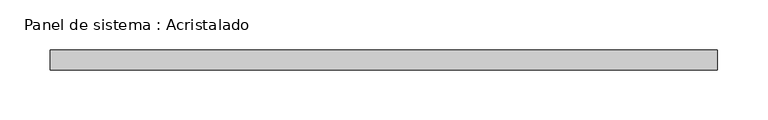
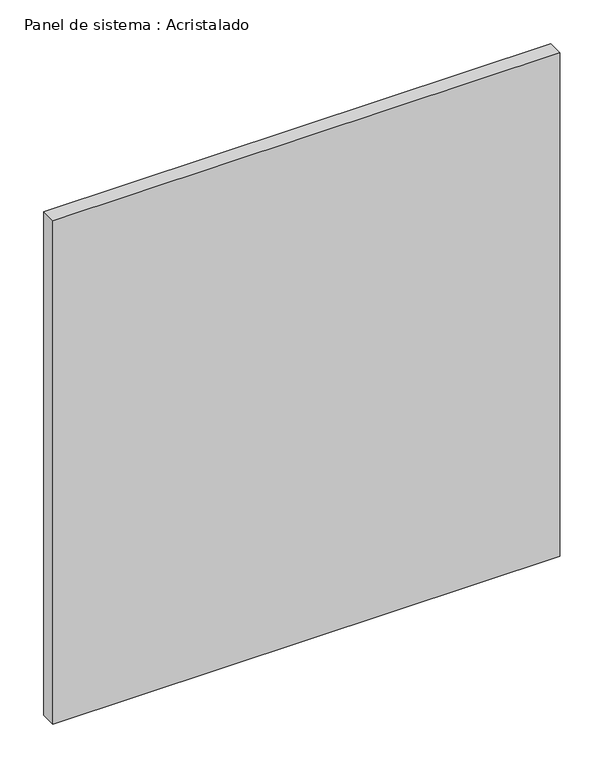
"""IFC4 building model written with IfcOpenShell, lengths in millimetres: plate geometry, Panel de sistema : Acristalado."""

from ifc_helpers import new_model, si_unit, origin, origin_with_axes, place, context, project, spatial, polyline, outline, extrude, source, transform, mapped, element, save


def panel_de_sistema_acristalado_c4d1b7ef(model_context):
    return source(origin(), model_context, "Body", "SweptSolid", [
        extrude(outline(polyline([(333.3333334, -10.0), (-333.3333334, -10.0), (-333.3333334, 10.0), (333.3333334, 10.0), (333.3333334, -10.0)])), origin_with_axes(), (0.0, 0.0, 1.0), 700.0),
    ])


if __name__ == "__main__":
    model = new_model("IFC4")
    model_context = context("Model", 3, world=origin())
    ifc_project = project(units=[si_unit("LENGTHUNIT", "METRE", prefix="MILLI")], contexts=[model_context])
    site = spatial("IfcSite", under=ifc_project)
    building = spatial("IfcBuilding", under=site)
    placement = place(None, origin())
    panel_de_sistema_acristalado_shape = panel_de_sistema_acristalado_c4d1b7ef(model_context)
    element("IfcPlate", 1, ObjectType="Panel de sistema : Acristalado", at=placement, inside=building, context=model_context, shape_type="MappedRepresentation", body=[
        mapped(panel_de_sistema_acristalado_shape, transform((0.0, 0.0, 0.0), x_axis=(1.0, 0.0, 0.0), y_axis=(0.0, 1.0, 0.0), z_axis=(0.0, 0.0, 1.0))),
    ])
    save(model, "model.ifc")
